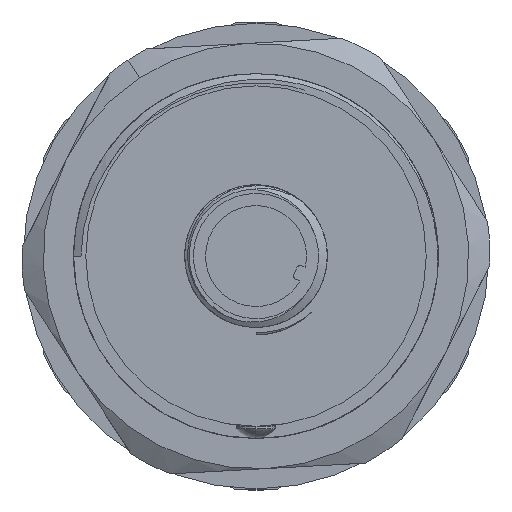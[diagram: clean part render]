
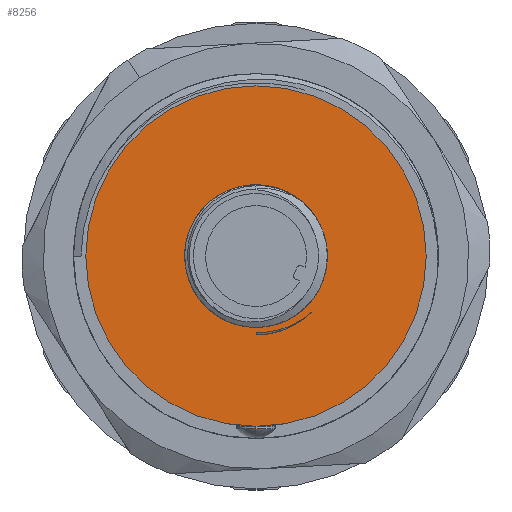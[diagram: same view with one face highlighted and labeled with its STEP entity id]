
A CAD part, front view. The second image highlights one B-rep face of the part: STEP entity #8256.
In plain terms, the highlighted planar face has unit normal (0, -1, 0).
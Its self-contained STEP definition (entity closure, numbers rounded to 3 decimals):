
#161 = VERTEX_POINT ( 'NONE', #9384 ) ;
#230 = DIRECTION ( 'NONE',  ( 0., 0., 1. ) ) ;
#752 = VERTEX_POINT ( 'NONE', #9061 ) ;
#930 = CARTESIAN_POINT ( 'NONE',  ( -0.606, -18.5, 23.721 ) ) ;
#1156 = CARTESIAN_POINT ( 'NONE',  ( 13.394, -18.5, 30. ) ) ;
#1196 = AXIS2_PLACEMENT_3D ( 'NONE', #1156, #2893, #230 ) ;
#1208 = DIRECTION ( 'NONE',  ( 0., 0., 1. ) ) ;
#1243 = EDGE_CURVE ( 'NONE', #6777, #752, #9623, .T. ) ;
#1301 = DIRECTION ( 'NONE',  ( 0., 0., -1. ) ) ;
#1469 = CARTESIAN_POINT ( 'NONE',  ( 3.643, -18.5, 25.103 ) ) ;
#1519 = CARTESIAN_POINT ( 'NONE',  ( 2.616, -18.5, 24.355 ) ) ;
#1806 = LINE ( 'NONE', #10998, #7868 ) ;
#1958 = FACE_BOUND ( 'NONE', #3068, .T. ) ;
#2290 = CARTESIAN_POINT ( 'NONE',  ( 3.649, -18.5, 25.087 ) ) ;
#2343 = CARTESIAN_POINT ( 'NONE',  ( 2.593, -18.5, 24.432 ) ) ;
#2422 = DIRECTION ( 'NONE',  ( 0., 1., 0. ) ) ;
#2426 = CARTESIAN_POINT ( 'NONE',  ( -0.606, -18.5, 24.7 ) ) ;
#2717 = PLANE ( 'NONE',  #1196 ) ;
#2762 = VERTEX_POINT ( 'NONE', #5068 ) ;
#2893 = DIRECTION ( 'NONE',  ( 0., 1., 0. ) ) ;
#3068 = EDGE_LOOP ( 'NONE', ( #7650, #5954 ) ) ;
#3275 = CARTESIAN_POINT ( 'NONE',  ( 3.951, -18.5, 25.385 ) ) ;
#3613 = VERTEX_POINT ( 'NONE', #10985 ) ;
#3660 = B_SPLINE_CURVE_WITH_KNOTS ( 'NONE', 3,
 ( #6739, #1469, #7738, #4216, #2343, #10258, #10221, #10374, #7654, #4057, #5894, #9376 ),
 .UNSPECIFIED., .F., .F.,
 ( 4, 2, 2, 2, 2, 4 ),
 ( 0., 0.001, 0.002, 0.002, 0.004, 0.005 ),
 .UNSPECIFIED. ) ;
#3756 = CARTESIAN_POINT ( 'NONE',  ( -0.606, -18.5, 30. ) ) ;
#3801 = AXIS2_PLACEMENT_3D ( 'NONE', #3756, #5589, #1208 ) ;
#3818 = CIRCLE ( 'NONE', #7314, 5.3 ) ;
#4057 = CARTESIAN_POINT ( 'NONE',  ( 0.225, -18.5, 23.728 ) ) ;
#4216 = CARTESIAN_POINT ( 'NONE',  ( 2.778, -18.5, 24.532 ) ) ;
#4230 = EDGE_CURVE ( 'NONE', #8188, #6777, #1806, .T. ) ;
#4440 = CARTESIAN_POINT ( 'NONE',  ( -0.606, -18.5, 23.512 ) ) ;
#5021 = CARTESIAN_POINT ( 'NONE',  ( 1.066, -18.5, 23.718 ) ) ;
#5068 = CARTESIAN_POINT ( 'NONE',  ( -0.606, -18.5, 16. ) ) ;
#5589 = DIRECTION ( 'NONE',  ( 0., 1., 0. ) ) ;
#5791 = CARTESIAN_POINT ( 'NONE',  ( 2.243, -18.5, 24.158 ) ) ;
#5792 = EDGE_LOOP ( 'NONE', ( #7307, #9359, #6105 ) ) ;
#5894 = CARTESIAN_POINT ( 'NONE',  ( -0.189, -18.5, 23.704 ) ) ;
#5954 = ORIENTED_EDGE ( 'NONE', *, *, #10358, .T. ) ;
#6082 = AXIS2_PLACEMENT_3D ( 'NONE', #6812, #7814, #10290 ) ;
#6105 = ORIENTED_EDGE ( 'NONE', *, *, #1243, .F. ) ;
#6438 = AXIS2_PLACEMENT_3D ( 'NONE', #7689, #2422, #11300 ) ;
#6714 = CARTESIAN_POINT ( 'NONE',  ( -0.606, -18.5, 30. ) ) ;
#6739 = CARTESIAN_POINT ( 'NONE',  ( 3.951, -18.5, 25.385 ) ) ;
#6752 = DIRECTION ( 'NONE',  ( 0., 0., 1. ) ) ;
#6777 = VERTEX_POINT ( 'NONE', #4440 ) ;
#6812 = CARTESIAN_POINT ( 'NONE',  ( -0.606, -18.5, 30. ) ) ;
#6963 = CARTESIAN_POINT ( 'NONE',  ( -0.182, -18.5, 23.512 ) ) ;
#7307 = ORIENTED_EDGE ( 'NONE', *, *, #4230, .F. ) ;
#7314 = AXIS2_PLACEMENT_3D ( 'NONE', #6714, #10996, #6752 ) ;
#7569 = EDGE_CURVE ( 'NONE', #2762, #3613, #10021, .T. ) ;
#7650 = ORIENTED_EDGE ( 'NONE', *, *, #11392, .T. ) ;
#7654 = CARTESIAN_POINT ( 'NONE',  ( 1.05, -18.5, 23.858 ) ) ;
#7689 = CARTESIAN_POINT ( 'NONE',  ( -0.606, -18.5, 30. ) ) ;
#7738 = CARTESIAN_POINT ( 'NONE',  ( 3.311, -18.5, 24.855 ) ) ;
#7771 = VERTEX_POINT ( 'NONE', #2426 ) ;
#7814 = DIRECTION ( 'NONE',  ( 0., 1., 0. ) ) ;
#7868 = VECTOR ( 'NONE', #1301, 1000. ) ;
#8188 = VERTEX_POINT ( 'NONE', #930 ) ;
#8256 = ADVANCED_FACE ( 'NONE', ( #1958, #10490, #10873 ), #2717, .F. ) ;
#8526 = CARTESIAN_POINT ( 'NONE',  ( 3.322, -18.5, 24.821 ) ) ;
#8774 = CARTESIAN_POINT ( 'NONE',  ( -0.606, -18.5, 23.512 ) ) ;
#8979 = EDGE_CURVE ( 'NONE', #752, #8188, #3660, .T. ) ;
#9061 = CARTESIAN_POINT ( 'NONE',  ( 3.951, -18.5, 25.385 ) ) ;
#9258 = ORIENTED_EDGE ( 'NONE', *, *, #11312, .F. ) ;
#9359 = ORIENTED_EDGE ( 'NONE', *, *, #8979, .F. ) ;
#9376 = CARTESIAN_POINT ( 'NONE',  ( -0.606, -18.5, 23.721 ) ) ;
#9384 = CARTESIAN_POINT ( 'NONE',  ( -0.606, -18.5, 35.3 ) ) ;
#9445 = CIRCLE ( 'NONE', #6438, 5.3 ) ;
#9623 = B_SPLINE_CURVE_WITH_KNOTS ( 'NONE', 3,
 ( #8774, #6963, #10314, #5021, #11168, #5791, #1519, #8526, #2290, #3275 ),
 .UNSPECIFIED., .F., .F.,
 ( 4, 2, 2, 2, 4 ),
 ( 0., 0.001, 0.003, 0.004, 0.005 ),
 .UNSPECIFIED. ) ;
#9835 = ORIENTED_EDGE ( 'NONE', *, *, #7569, .F. ) ;
#10021 = CIRCLE ( 'NONE', #3801, 14. ) ;
#10068 = EDGE_LOOP ( 'NONE', ( #9258, #9835 ) ) ;
#10221 = CARTESIAN_POINT ( 'NONE',  ( 2.03, -18.5, 24.173 ) ) ;
#10258 = CARTESIAN_POINT ( 'NONE',  ( 2.22, -18.5, 24.253 ) ) ;
#10290 = DIRECTION ( 'NONE',  ( 0., 0., 1. ) ) ;
#10314 = CARTESIAN_POINT ( 'NONE',  ( 0.237, -18.5, 23.554 ) ) ;
#10358 = EDGE_CURVE ( 'NONE', #7771, #161, #3818, .T. ) ;
#10374 = CARTESIAN_POINT ( 'NONE',  ( 1.45, -18.5, 23.962 ) ) ;
#10490 = FACE_OUTER_BOUND ( 'NONE', #10068, .T. ) ;
#10873 = FACE_BOUND ( 'NONE', #5792, .T. ) ;
#10985 = CARTESIAN_POINT ( 'NONE',  ( -0.606, -18.5, 44. ) ) ;
#10996 = DIRECTION ( 'NONE',  ( 0., 1., 0. ) ) ;
#10998 = CARTESIAN_POINT ( 'NONE',  ( -0.606, -18.5, 30. ) ) ;
#11168 = CARTESIAN_POINT ( 'NONE',  ( 1.471, -18.5, 23.84 ) ) ;
#11300 = DIRECTION ( 'NONE',  ( 0., 0., 1. ) ) ;
#11312 = EDGE_CURVE ( 'NONE', #3613, #2762, #11363, .T. ) ;
#11363 = CIRCLE ( 'NONE', #6082, 14. ) ;
#11392 = EDGE_CURVE ( 'NONE', #161, #7771, #9445, .T. ) ;
